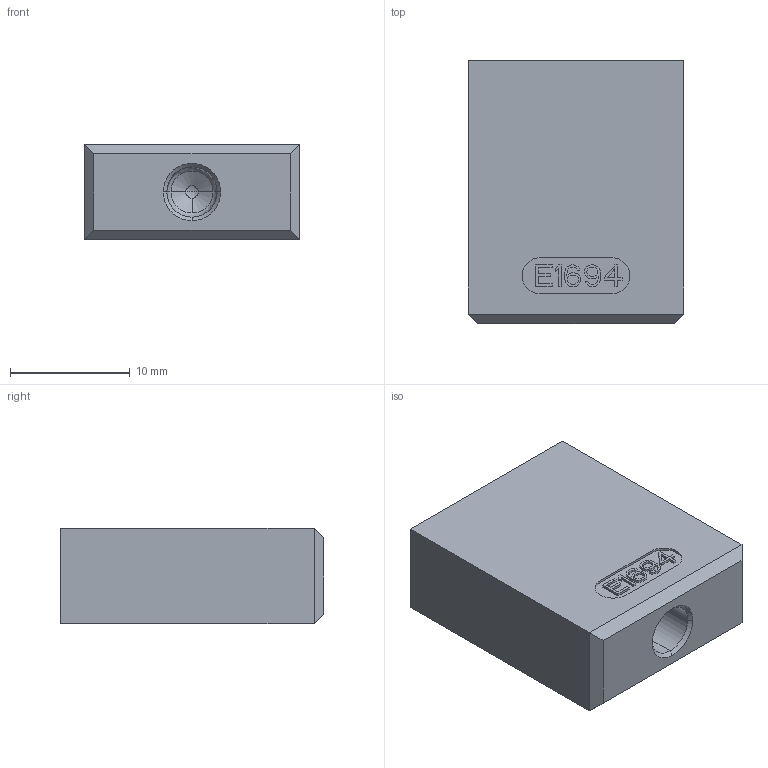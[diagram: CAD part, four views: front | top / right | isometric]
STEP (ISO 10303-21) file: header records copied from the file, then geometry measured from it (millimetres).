
FILE_DESCRIPTION (( 'STEP AP214' ), '1' );
FILE_NAME ('E 1694_18.STEP', '2018-06-21T06:34:04', ( '' ), ( '' ), 'SwSTEP 2.0', 'SolidWorks 2017', '' );
FILE_SCHEMA (( 'AUTOMOTIVE_DESIGN' ));
Length unit declared in the file: millimetre
Products named in the file (1): E 1694_18
Bounding box: 18 x 22 x 8 mm (x, y, z)
Volume: 2918.8 mm3; surface area: 1721.8 mm2
Topology: 3 solids, 3 shells, 237 faces, 635 edges, 410 vertices
Faces by surface type: plane 195, bspline 24, cylinder 12, cone 6
Entity records: 9144 total; most frequent: CARTESIAN_POINT 3335, ORIENTED_EDGE 1254, DIRECTION 1064, EDGE_CURVE 627, VECTOR 552, LINE 552, VERTEX_POINT 410, AXIS2_PLACEMENT_3D 256
